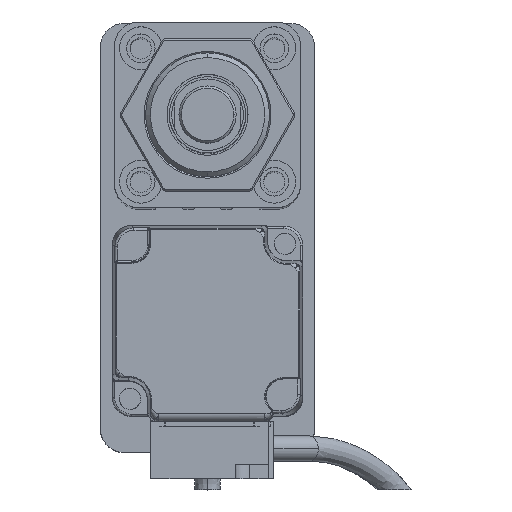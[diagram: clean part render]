
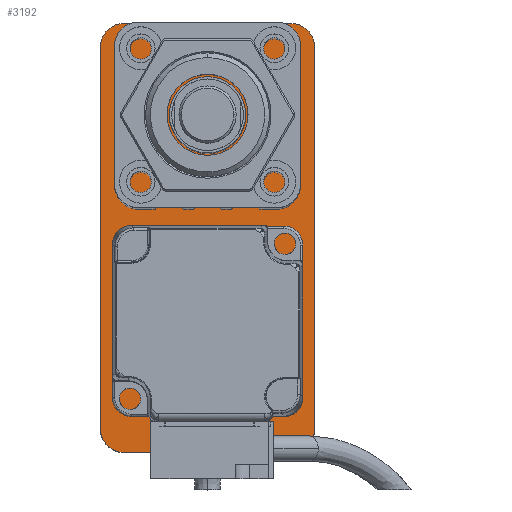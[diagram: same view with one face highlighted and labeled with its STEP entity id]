
A CAD part, top view. The second image highlights one B-rep face of the part: STEP entity #3192.
In plain terms, the highlighted planar face has unit normal (0, 0, 1).
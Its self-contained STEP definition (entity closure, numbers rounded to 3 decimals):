
#173 = VERTEX_POINT ( 'NONE', #21714 ) ;
#409 = DIRECTION ( 'NONE',  ( 0., 0., 1. ) ) ;
#855 = LINE ( 'NONE', #12488, #1560 ) ;
#913 = VERTEX_POINT ( 'NONE', #6256 ) ;
#1241 = EDGE_CURVE ( 'NONE', #173, #6372, #3082, .T. ) ;
#1560 = VECTOR ( 'NONE', #6154, 1000. ) ;
#1723 = VERTEX_POINT ( 'NONE', #4996 ) ;
#1930 = CARTESIAN_POINT ( 'NONE',  ( 17.5, 45., 10. ) ) ;
#2364 = DIRECTION ( 'NONE',  ( 0., 0., 1. ) ) ;
#2650 = VERTEX_POINT ( 'NONE', #18080 ) ;
#3009 = VERTEX_POINT ( 'NONE', #17675 ) ;
#3082 = CIRCLE ( 'NONE', #3296, 5. ) ;
#3192 = ADVANCED_FACE ( 'NONE', ( #14405 ), #23041, .T. ) ;
#3296 = AXIS2_PLACEMENT_3D ( 'NONE', #20591, #16223, #24697 ) ;
#3318 = DIRECTION ( 'NONE',  ( 0., 0., 1. ) ) ;
#3415 = ORIENTED_EDGE ( 'NONE', *, *, #16537, .T. ) ;
#3546 = DIRECTION ( 'NONE',  ( -1., 0., 0. ) ) ;
#4405 = CIRCLE ( 'NONE', #12483, 5. ) ;
#4425 = DIRECTION ( 'NONE',  ( 1., 0., 0. ) ) ;
#4996 = CARTESIAN_POINT ( 'NONE',  ( 17.5, -45., 10. ) ) ;
#5045 = ORIENTED_EDGE ( 'NONE', *, *, #13803, .T. ) ;
#5305 = ORIENTED_EDGE ( 'NONE', *, *, #16499, .T. ) ;
#6154 = DIRECTION ( 'NONE',  ( 0., 1., 0. ) ) ;
#6256 = CARTESIAN_POINT ( 'NONE',  ( -17.5, 45., 10. ) ) ;
#6372 = VERTEX_POINT ( 'NONE', #1930 ) ;
#6570 = EDGE_CURVE ( 'NONE', #26840, #3009, #11594, .T. ) ;
#6731 = ORIENTED_EDGE ( 'NONE', *, *, #8958, .T. ) ;
#6790 = CARTESIAN_POINT ( 'NONE',  ( -17.5, 40., 10. ) ) ;
#6895 = DIRECTION ( 'NONE',  ( 0., -1., 0. ) ) ;
#7199 = VECTOR ( 'NONE', #6895, 1000. ) ;
#8856 = LINE ( 'NONE', #15570, #7199 ) ;
#8958 = EDGE_CURVE ( 'NONE', #913, #26870, #13178, .T. ) ;
#9259 = CARTESIAN_POINT ( 'NONE',  ( -17.5, -40., 10. ) ) ;
#9438 = AXIS2_PLACEMENT_3D ( 'NONE', #9259, #3318, #11508 ) ;
#11075 = DIRECTION ( 'NONE',  ( 1., 0., 0. ) ) ;
#11508 = DIRECTION ( 'NONE',  ( 1., 0., 0. ) ) ;
#11594 = CIRCLE ( 'NONE', #9438, 5. ) ;
#12027 = CARTESIAN_POINT ( 'NONE',  ( -22.5, -40., 10. ) ) ;
#12282 = DIRECTION ( 'NONE',  ( 1., 0., 0. ) ) ;
#12483 = AXIS2_PLACEMENT_3D ( 'NONE', #17188, #2364, #4425 ) ;
#12488 = CARTESIAN_POINT ( 'NONE',  ( 22.5, -45., 10. ) ) ;
#13178 = CIRCLE ( 'NONE', #17562, 5. ) ;
#13803 = EDGE_CURVE ( 'NONE', #2650, #173, #855, .T. ) ;
#14137 = EDGE_CURVE ( 'NONE', #26870, #26840, #8856, .T. ) ;
#14405 = FACE_OUTER_BOUND ( 'NONE', #20273, .T. ) ;
#14464 = VECTOR ( 'NONE', #3546, 1000. ) ;
#14485 = DIRECTION ( 'NONE',  ( 1., 0., 0. ) ) ;
#15138 = LINE ( 'NONE', #18187, #14464 ) ;
#15570 = CARTESIAN_POINT ( 'NONE',  ( -22.5, -45., 10. ) ) ;
#16223 = DIRECTION ( 'NONE',  ( 0., 0., 1. ) ) ;
#16499 = EDGE_CURVE ( 'NONE', #6372, #913, #15138, .T. ) ;
#16537 = EDGE_CURVE ( 'NONE', #3009, #1723, #19194, .T. ) ;
#17188 = CARTESIAN_POINT ( 'NONE',  ( 17.5, -40., 10. ) ) ;
#17562 = AXIS2_PLACEMENT_3D ( 'NONE', #6790, #409, #11075 ) ;
#17675 = CARTESIAN_POINT ( 'NONE',  ( -17.5, -45., 10. ) ) ;
#17962 = ORIENTED_EDGE ( 'NONE', *, *, #6570, .T. ) ;
#18080 = CARTESIAN_POINT ( 'NONE',  ( 22.5, -40., 10. ) ) ;
#18183 = EDGE_CURVE ( 'NONE', #1723, #2650, #4405, .T. ) ;
#18187 = CARTESIAN_POINT ( 'NONE',  ( 22.5, 45., 10. ) ) ;
#19194 = LINE ( 'NONE', #25153, #26197 ) ;
#20273 = EDGE_LOOP ( 'NONE', ( #5045, #22203, #5305, #6731, #21539, #17962, #3415, #21091 ) ) ;
#20591 = CARTESIAN_POINT ( 'NONE',  ( 17.5, 40., 10. ) ) ;
#20930 = AXIS2_PLACEMENT_3D ( 'NONE', #25196, #27319, #14485 ) ;
#21091 = ORIENTED_EDGE ( 'NONE', *, *, #18183, .T. ) ;
#21227 = CARTESIAN_POINT ( 'NONE',  ( -22.5, 40., 10. ) ) ;
#21539 = ORIENTED_EDGE ( 'NONE', *, *, #14137, .T. ) ;
#21714 = CARTESIAN_POINT ( 'NONE',  ( 22.5, 40., 10. ) ) ;
#22203 = ORIENTED_EDGE ( 'NONE', *, *, #1241, .T. ) ;
#23041 = PLANE ( 'NONE',  #20930 ) ;
#24697 = DIRECTION ( 'NONE',  ( 1., 0., 0. ) ) ;
#25153 = CARTESIAN_POINT ( 'NONE',  ( 22.5, -45., 10. ) ) ;
#25196 = CARTESIAN_POINT ( 'NONE',  ( 0., 0., 10. ) ) ;
#26197 = VECTOR ( 'NONE', #12282, 1000. ) ;
#26840 = VERTEX_POINT ( 'NONE', #12027 ) ;
#26870 = VERTEX_POINT ( 'NONE', #21227 ) ;
#27319 = DIRECTION ( 'NONE',  ( 0., 0., 1. ) ) ;
